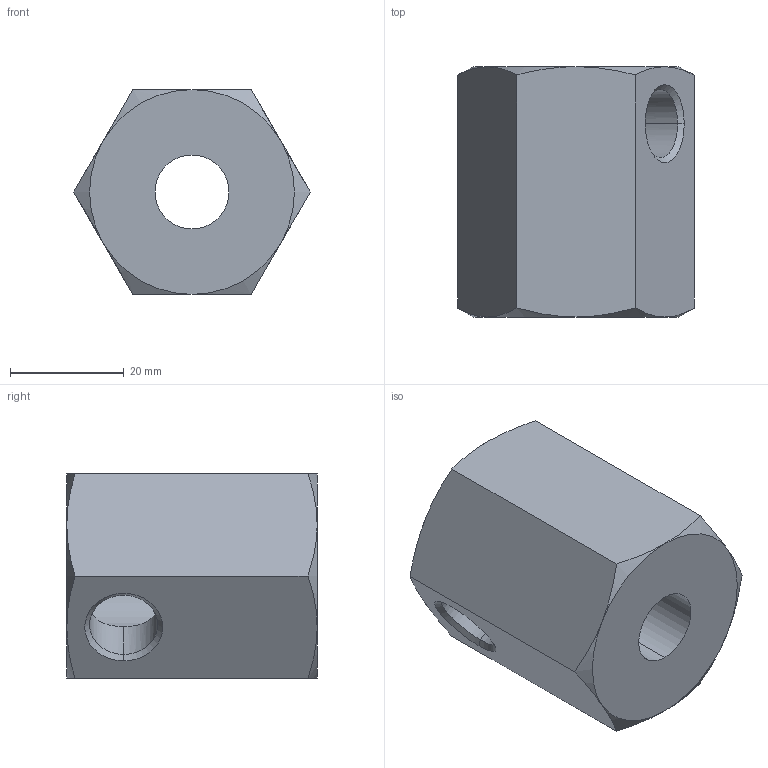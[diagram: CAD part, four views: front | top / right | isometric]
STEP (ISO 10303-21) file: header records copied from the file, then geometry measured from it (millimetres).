
FILE_DESCRIPTION (( 'STEP AP203' ), '1' );
FILE_NAME ('30400.W0145.step', '2011-03-01T17:12:27', ( 'Wixroyd' ), ( 'Wixroyd' ), 'SwSTEP 2.0', 'SolidWorks 2009', '' );
FILE_SCHEMA (( 'CONFIG_CONTROL_DESIGN' ));
Length unit declared in the file: millimetre
Products named in the file (1): 30400.W0145
Bounding box: 41.57 x 44 x 36 mm (x, y, z)
Volume: 36557.7 mm3; surface area: 9982.6 mm2
Topology: 1 solids, 1 shells, 33 faces, 74 edges, 44 vertices
Faces by surface type: cone 16, plane 9, cylinder 8
Entity records: 1253 total; most frequent: CARTESIAN_POINT 464, ORIENTED_EDGE 148, DIRECTION 142, EDGE_CURVE 74, AXIS2_PLACEMENT_3D 62, VERTEX_POINT 44, EDGE_LOOP 40, ADVANCED_FACE 33
